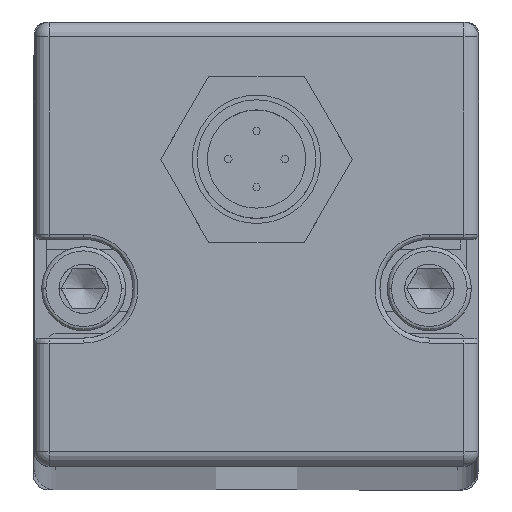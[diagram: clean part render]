
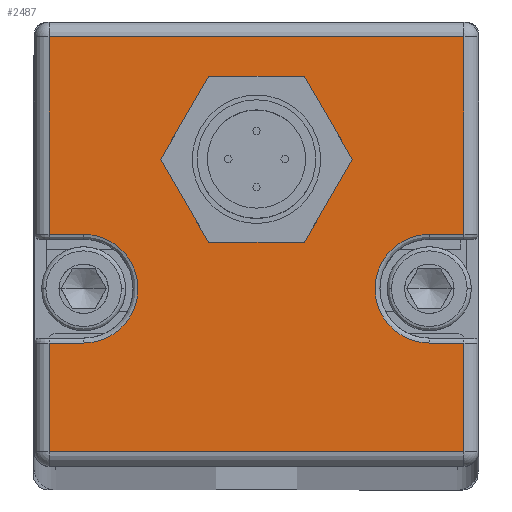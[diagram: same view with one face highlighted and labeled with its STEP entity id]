
A CAD part, top view. The second image highlights one B-rep face of the part: STEP entity #2487.
In plain terms, the highlighted planar face has unit normal (0, 0, 1) as drawn and (0, 1, 0) by its records, which use the part's own axes.
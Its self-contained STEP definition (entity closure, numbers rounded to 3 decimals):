
#436 = AXIS2_PLACEMENT_3D ( 'NONE', #9138, #9107, #9110 ) ;
#2168 = EDGE_CURVE ( 'NONE', #8307, #8300, #4209, .T. ) ;
#2169 = EDGE_CURVE ( 'NONE', #8304, #8307, #4208, .T. ) ;
#2171 = EDGE_CURVE ( 'NONE', #8264, #8286, #4212, .T. ) ;
#2172 = EDGE_CURVE ( 'NONE', #8300, #8302, #4214, .T. ) ;
#2173 = EDGE_CURVE ( 'NONE', #8277, #8276, #4218, .T. ) ;
#2174 = EDGE_CURVE ( 'NONE', #8302, #8264, #4217, .T. ) ;
#2175 = EDGE_CURVE ( 'NONE', #8305, #8304, #4219, .T. ) ;
#2249 = EDGE_CURVE ( 'NONE', #8286, #8267, #8625, .T. ) ;
#2487 = ADVANCED_FACE ( 'NONE', ( #7702, #7703 ), #9106, .T. ) ;
#2895 = EDGE_CURVE ( 'NONE', #8276, #8277, #4804, .T. ) ;
#2896 = EDGE_CURVE ( 'NONE', #8328, #8320, #4802, .T. ) ;
#3101 = EDGE_CURVE ( 'NONE', #8280, #8305, #4875, .T. ) ;
#3112 = EDGE_CURVE ( 'NONE', #8267, #8265, #4899, .T. ) ;
#4201 = VECTOR ( 'NONE', #7975, 1000. ) ;
#4204 = VECTOR ( 'NONE', #7985, 1000. ) ;
#4208 = LINE ( 'NONE', #7962, #4201 ) ;
#4209 = CIRCLE ( 'NONE', #4375, 5.5 ) ;
#4212 = LINE ( 'NONE', #7978, #4213 ) ;
#4213 = VECTOR ( 'NONE', #7979, 1000. ) ;
#4214 = LINE ( 'NONE', #7980, #4215 ) ;
#4215 = VECTOR ( 'NONE', #7981, 1000. ) ;
#4217 = LINE ( 'NONE', #7957, #4204 ) ;
#4218 = CIRCLE ( 'NONE', #4379, 6.5 ) ;
#4219 = LINE ( 'NONE', #7986, #4220 ) ;
#4220 = VECTOR ( 'NONE', #7987, 1000. ) ;
#4317 = EDGE_CURVE ( 'NONE', #8320, #8280, #6142, .T. ) ;
#4351 = EDGE_CURVE ( 'NONE', #8265, #8328, #6165, .T. ) ;
#4375 = AXIS2_PLACEMENT_3D ( 'NONE', #7971, #7972, #7973 ) ;
#4379 = AXIS2_PLACEMENT_3D ( 'NONE', #7974, #7982, #7983 ) ;
#4784 = VECTOR ( 'NONE', #5471, 1000. ) ;
#4802 = LINE ( 'NONE', #5458, #4784 ) ;
#4804 = CIRCLE ( 'NONE', #5069, 6.5 ) ;
#4841 = VECTOR ( 'NONE', #5560, 1000. ) ;
#4847 = VECTOR ( 'NONE', #5534, 1000. ) ;
#4875 = LINE ( 'NONE', #5527, #4847 ) ;
#4899 = LINE ( 'NONE', #5554, #4841 ) ;
#5069 = AXIS2_PLACEMENT_3D ( 'NONE', #5467, #5468, #5469 ) ;
#5160 = AXIS2_PLACEMENT_3D ( 'NONE', #6246, #6250, #6251 ) ;
#5458 = CARTESIAN_POINT ( 'NONE',  ( 22.5, 7., 10. ) ) ;
#5467 = CARTESIAN_POINT ( 'NONE',  ( 0., 7., -8.6 ) ) ;
#5468 = DIRECTION ( 'NONE',  ( 0., 1., 0. ) ) ;
#5469 = DIRECTION ( 'NONE',  ( 0., 0., 1. ) ) ;
#5471 = DIRECTION ( 'NONE',  ( -1., 0., 0. ) ) ;
#5527 = CARTESIAN_POINT ( 'NONE',  ( 22.5, 7., 21. ) ) ;
#5534 = DIRECTION ( 'NONE',  ( 1., 0., 0. ) ) ;
#5554 = CARTESIAN_POINT ( 'NONE',  ( 22.5, 7., -1. ) ) ;
#5560 = DIRECTION ( 'NONE',  ( 1., 0., 0. ) ) ;
#6141 = VECTOR ( 'NONE', #6203, 1000. ) ;
#6142 = LINE ( 'NONE', #6199, #6141 ) ;
#6165 = CIRCLE ( 'NONE', #5160, 5.5 ) ;
#6199 = CARTESIAN_POINT ( 'NONE',  ( -21., 7., 22.5 ) ) ;
#6203 = DIRECTION ( 'NONE',  ( 0., 0., 1. ) ) ;
#6246 = CARTESIAN_POINT ( 'NONE',  ( -17.5, 7., 4.5 ) ) ;
#6250 = DIRECTION ( 'NONE',  ( 0., -1., 0. ) ) ;
#6251 = DIRECTION ( 'NONE',  ( 0., 0., 1. ) ) ;
#6418 = CARTESIAN_POINT ( 'NONE',  ( 21., 7., -21. ) ) ;
#6419 = CARTESIAN_POINT ( 'NONE',  ( -17.5, 7., -1. ) ) ;
#6421 = CARTESIAN_POINT ( 'NONE',  ( -21., 7., -1. ) ) ;
#6430 = CARTESIAN_POINT ( 'NONE',  ( 0., 7., -15.1 ) ) ;
#6431 = CARTESIAN_POINT ( 'NONE',  ( 0., 7., -2.1 ) ) ;
#6434 = CARTESIAN_POINT ( 'NONE',  ( -21., 7., 21. ) ) ;
#6440 = CARTESIAN_POINT ( 'NONE',  ( -21., 7., -21. ) ) ;
#6454 = CARTESIAN_POINT ( 'NONE',  ( 17.5, 7., -1. ) ) ;
#6456 = CARTESIAN_POINT ( 'NONE',  ( 21., 7., -1. ) ) ;
#6458 = CARTESIAN_POINT ( 'NONE',  ( 21., 7., 10. ) ) ;
#6459 = CARTESIAN_POINT ( 'NONE',  ( 21., 7., 21. ) ) ;
#6461 = CARTESIAN_POINT ( 'NONE',  ( 17.5, 7., 10. ) ) ;
#6472 = CARTESIAN_POINT ( 'NONE',  ( -21., 7., 10. ) ) ;
#6480 = CARTESIAN_POINT ( 'NONE',  ( -17.5, 7., 10. ) ) ;
#7581 = EDGE_LOOP ( 'NONE', ( #9065, #9049, #9066, #9067, #9068, #9014, #9069, #9028, #9024, #9030, #9021, #8382 ) ) ;
#7587 = EDGE_LOOP ( 'NONE', ( #9050, #9039 ) ) ;
#7702 = FACE_BOUND ( 'NONE', #7587, .T. ) ;
#7703 = FACE_OUTER_BOUND ( 'NONE', #7581, .T. ) ;
#7801 = CARTESIAN_POINT ( 'NONE',  ( -21., 7., 22.5 ) ) ;
#7843 = DIRECTION ( 'NONE',  ( 0., 0., 1. ) ) ;
#7957 = CARTESIAN_POINT ( 'NONE',  ( 21., 7., -22.5 ) ) ;
#7962 = CARTESIAN_POINT ( 'NONE',  ( 22.5, 7., 10. ) ) ;
#7971 = CARTESIAN_POINT ( 'NONE',  ( 17.5, 7., 4.5 ) ) ;
#7972 = DIRECTION ( 'NONE',  ( 0., -1., 0. ) ) ;
#7973 = DIRECTION ( 'NONE',  ( 0., 0., 1. ) ) ;
#7974 = CARTESIAN_POINT ( 'NONE',  ( 0., 7., -8.6 ) ) ;
#7975 = DIRECTION ( 'NONE',  ( -1., 0., 0. ) ) ;
#7978 = CARTESIAN_POINT ( 'NONE',  ( 22.5, 7., -21. ) ) ;
#7979 = DIRECTION ( 'NONE',  ( -1., 0., 0. ) ) ;
#7980 = CARTESIAN_POINT ( 'NONE',  ( 22.5, 7., -1. ) ) ;
#7981 = DIRECTION ( 'NONE',  ( 1., 0., 0. ) ) ;
#7982 = DIRECTION ( 'NONE',  ( 0., 1., 0. ) ) ;
#7983 = DIRECTION ( 'NONE',  ( 0., 0., 1. ) ) ;
#7985 = DIRECTION ( 'NONE',  ( 0., 0., -1. ) ) ;
#7986 = CARTESIAN_POINT ( 'NONE',  ( 21., 7., 9.5 ) ) ;
#7987 = DIRECTION ( 'NONE',  ( 0., 0., -1. ) ) ;
#8264 = VERTEX_POINT ( 'NONE', #6418 ) ;
#8265 = VERTEX_POINT ( 'NONE', #6419 ) ;
#8267 = VERTEX_POINT ( 'NONE', #6421 ) ;
#8276 = VERTEX_POINT ( 'NONE', #6430 ) ;
#8277 = VERTEX_POINT ( 'NONE', #6431 ) ;
#8280 = VERTEX_POINT ( 'NONE', #6434 ) ;
#8286 = VERTEX_POINT ( 'NONE', #6440 ) ;
#8300 = VERTEX_POINT ( 'NONE', #6454 ) ;
#8302 = VERTEX_POINT ( 'NONE', #6456 ) ;
#8304 = VERTEX_POINT ( 'NONE', #6458 ) ;
#8305 = VERTEX_POINT ( 'NONE', #6459 ) ;
#8307 = VERTEX_POINT ( 'NONE', #6461 ) ;
#8320 = VERTEX_POINT ( 'NONE', #6472 ) ;
#8328 = VERTEX_POINT ( 'NONE', #6480 ) ;
#8382 = ORIENTED_EDGE ( 'NONE', *, *, #3101, .T. ) ;
#8607 = VECTOR ( 'NONE', #7843, 1000. ) ;
#8625 = LINE ( 'NONE', #7801, #8607 ) ;
#9014 = ORIENTED_EDGE ( 'NONE', *, *, #2171, .T. ) ;
#9021 = ORIENTED_EDGE ( 'NONE', *, *, #4317, .T. ) ;
#9024 = ORIENTED_EDGE ( 'NONE', *, *, #4351, .T. ) ;
#9028 = ORIENTED_EDGE ( 'NONE', *, *, #3112, .T. ) ;
#9030 = ORIENTED_EDGE ( 'NONE', *, *, #2896, .T. ) ;
#9039 = ORIENTED_EDGE ( 'NONE', *, *, #2895, .F. ) ;
#9049 = ORIENTED_EDGE ( 'NONE', *, *, #2169, .T. ) ;
#9050 = ORIENTED_EDGE ( 'NONE', *, *, #2173, .F. ) ;
#9065 = ORIENTED_EDGE ( 'NONE', *, *, #2175, .T. ) ;
#9066 = ORIENTED_EDGE ( 'NONE', *, *, #2168, .T. ) ;
#9067 = ORIENTED_EDGE ( 'NONE', *, *, #2172, .T. ) ;
#9068 = ORIENTED_EDGE ( 'NONE', *, *, #2174, .T. ) ;
#9069 = ORIENTED_EDGE ( 'NONE', *, *, #2249, .T. ) ;
#9106 = PLANE ( 'NONE',  #436 ) ;
#9107 = DIRECTION ( 'NONE',  ( 0., 1., 0. ) ) ;
#9110 = DIRECTION ( 'NONE',  ( 0., 0., 1. ) ) ;
#9138 = CARTESIAN_POINT ( 'NONE',  ( 22.5, 7., 22.5 ) ) ;
